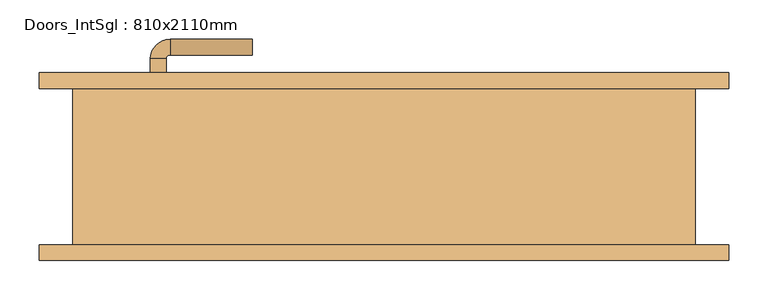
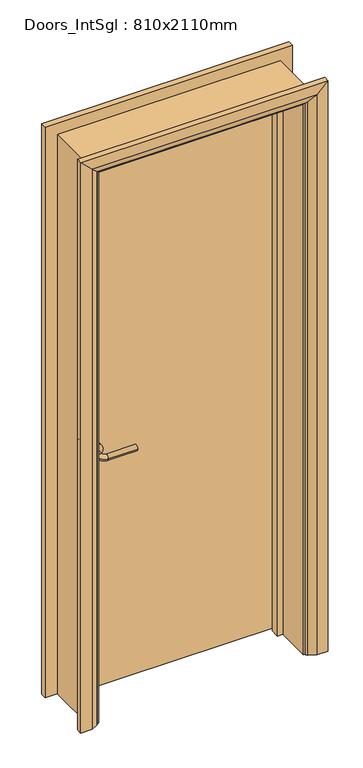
"""IFC4 building model written with IfcOpenShell, lengths in millimetres: door geometry, Doors_IntSgl : 810x2110mm."""

from ifc_helpers import new_model, si_unit, point, frame, frame_2d, origin, place, context, project, spatial, polyline, circle_curve, ellipse_curve, trimmed, segment, composite_curve, outline, extrude, faceted_brep, source, transform, mapped, element, save
from ifc_brep_helpers import plane_surface, cylinder_surface, revolved_surface, advanced_brep


def doors_intsgl_810x2110mm_e568eb51(model_context):
    return source(origin(), model_context, "Body", "SolidModel", [
        advanced_brep(
        [(-298.0, 54.0, 900.0), (-278.0, 54.0, 900.0), (-278.0, 24.0, 900.0), (-298.0, 24.0, 900.0), (-273.0, 19.0, 900.0), (-273.0, -1.0, 900.0), (-168.0, -1.0, 900.0), (-168.0, 19.0, 900.0)],
        [
            (0, 1, circle_curve(frame((-288.0, 54.0, 900.0), z_axis=(0.0, 1.0, 0.0), x_axis=(1.0, 0.0, 0.0)), 10.0)),
            (1, 0, circle_curve(frame((-288.0, 54.0, 900.0), z_axis=(0.0, 1.0, 0.0), x_axis=(1.0, 0.0, 0.0)), 10.0)),
            (1, 2),
            (2, 3, circle_curve(frame((-288.0, 24.0, 900.0), z_axis=(0.0, 1.0, 0.0), x_axis=(1.0, 0.0, 0.0)), 10.0)),
            (3, 0),
            (3, 2, circle_curve(frame((-288.0, 24.0, 900.0), z_axis=(0.0, 1.0, 0.0), x_axis=(1.0, 0.0, 0.0)), 10.0)),
            (4, 5, circle_curve(frame((-273.0, 9.0, 900.0), z_axis=(-1.0, 0.0, 0.0), x_axis=(0.0, 1.0, 0.0)), 10.0)),
            (5, 3, circle_curve(frame((-273.0, 24.0, 900.0), z_axis=(0.0, 0.0, -1.0), x_axis=(-1.0, 0.0, 0.0)), 25.0)),
            (2, 4, circle_curve(frame((-273.0, 24.0, 900.0), z_axis=(0.0, 0.0, 1.0), x_axis=(-1.0, 0.0, 0.0)), 5.0)),
            (5, 4, circle_curve(frame((-273.0, 9.0, 900.0), z_axis=(-1.0, 0.0, 0.0), x_axis=(0.0, 1.0, 0.0)), 10.0)),
            (6, 7, circle_curve(frame((-168.0, 9.0, 900.0), z_axis=(1.0, 0.0, 0.0), x_axis=(0.0, 1.0, 0.0)), 10.0)),
            (7, 6, circle_curve(frame((-168.0, 9.0, 900.0), z_axis=(1.0, 0.0, 0.0), x_axis=(0.0, 1.0, 0.0)), 10.0)),
            (4, 7),
            (6, 5),
        ],
        [
            plane_surface(frame((-288.0, 54.0, 900.0), z_axis=(0.0, 1.0, 0.0), x_axis=(0.0, 0.0, 1.0))),
            cylinder_surface(frame((-288.0, 54.0, 900.0), z_axis=(0.0, 1.0, 0.0), x_axis=(1.0, 0.0, 0.0)), 10.0),
            revolved_surface(trimmed(ellipse_curve(frame((-288.0, 24.0, 900.0), z_axis=(0.0, -1.0, 0.0), x_axis=(1.0, 0.0, 0.0)), 10.0, 10.0), [point((-298.0, 24.0, 900.0))], [point((-278.0, 24.0, 900.0))], True, "CARTESIAN"), (-273.0, 24.0, 900.0), (0.0, 0.0, -1.0)),
            revolved_surface(trimmed(ellipse_curve(frame((-288.0, 24.0, 900.0), z_axis=(0.0, -1.0, 0.0), x_axis=(1.0, 0.0, 0.0)), 10.0, 10.0), [point((-278.0, 24.0, 900.0))], [point((-298.0, 24.0, 900.0))], True, "CARTESIAN"), (-273.0, 24.0, 900.0), (0.0, 0.0, -1.0)),
            plane_surface(frame((-168.0, 9.0, 900.0), z_axis=(1.0, 0.0, 0.0), x_axis=(0.0, 0.0, 1.0))),
            cylinder_surface(frame((-273.0, 9.0, 900.0), z_axis=(-1.0, 0.0, 0.0), x_axis=(0.0, 1.0, 0.0)), 10.0),
        ],
        [
            (0, [[1, 2]]),
            (1, [[3, 4, 5, -2]]),
            (1, [[-5, 6, -3, -1]]),
            (2, [[7, 8, -4, 9]]),
            (3, [[10, -9, -6, -8]]),
            (4, [[11, 12]]),
            (5, [[13, -11, 14, -7]]),
            (5, [[-14, -12, -13, -10]]),
        ],
    ),
        extrude(outline(composite_curve([segment(trimmed(circle_curve(frame_2d((900.0, -290.5)), 30.0), [point((900.0, -320.5))], [point((900.0, -260.5))], False, "CARTESIAN"), True, "CONTINUOUS"), segment(trimmed(circle_curve(frame_2d((900.0, -290.5)), 30.0), [point((900.0, -260.5))], [point((900.0, -320.5))], False, "CARTESIAN"), True, "CONTINUOUS")], self_intersect=False)), frame((0.0, 54.0, 0.0), z_axis=(0.0, 1.0, 0.0), x_axis=(0.0, 0.0, 1.0)), (0.0, 0.0, 1.0), 8.0),
        advanced_brep(
        [(-298.0, 108.0, 900.0), (-278.0, 108.0, 900.0), (-298.0, 138.0, 900.0), (-278.0, 138.0, 900.0), (-273.0, 143.0, 900.0), (-273.0, 163.0, 900.0), (-168.0, 163.0, 900.0), (-168.0, 143.0, 900.0)],
        [
            (0, 1, circle_curve(frame((-288.0, 108.0, 900.0), z_axis=(0.0, -1.0, 0.0), x_axis=(1.0, 0.0, 0.0)), 10.0)),
            (1, 0, circle_curve(frame((-288.0, 108.0, 900.0), z_axis=(0.0, -1.0, 0.0), x_axis=(1.0, 0.0, 0.0)), 10.0)),
            (0, 2),
            (2, 3, circle_curve(frame((-288.0, 138.0, 900.0), z_axis=(0.0, -1.0, 0.0), x_axis=(1.0, 0.0, 0.0)), 10.0)),
            (3, 1),
            (3, 2, circle_curve(frame((-288.0, 138.0, 900.0), z_axis=(0.0, -1.0, 0.0), x_axis=(1.0, 0.0, 0.0)), 10.0)),
            (4, 3, circle_curve(frame((-273.0, 138.0, 900.0), z_axis=(0.0, 0.0, 1.0), x_axis=(-1.0, 0.0, 0.0)), 5.0)),
            (2, 5, circle_curve(frame((-273.0, 138.0, 900.0), z_axis=(0.0, 0.0, -1.0), x_axis=(-1.0, 0.0, 0.0)), 25.0)),
            (5, 4, circle_curve(frame((-273.0, 153.0, 900.0), z_axis=(-1.0, 0.0, 0.0), x_axis=(0.0, -1.0, 0.0)), 10.0)),
            (4, 5, circle_curve(frame((-273.0, 153.0, 900.0), z_axis=(-1.0, 0.0, 0.0), x_axis=(0.0, -1.0, 0.0)), 10.0)),
            (6, 7, circle_curve(frame((-168.0, 153.0, 900.0), z_axis=(1.0, 0.0, 0.0), x_axis=(0.0, -1.0, 0.0)), 10.0)),
            (7, 6, circle_curve(frame((-168.0, 153.0, 900.0), z_axis=(1.0, 0.0, 0.0), x_axis=(0.0, -1.0, 0.0)), 10.0)),
            (5, 6),
            (7, 4),
        ],
        [
            plane_surface(frame((-288.0, 108.0, 900.0), z_axis=(0.0, -1.0, 0.0), x_axis=(0.0, 0.0, 1.0))),
            cylinder_surface(frame((-288.0, 108.0, 900.0), z_axis=(0.0, -1.0, 0.0), x_axis=(1.0, 0.0, 0.0)), 10.0),
            revolved_surface(trimmed(ellipse_curve(frame((-288.0, 138.0, 900.0), z_axis=(0.0, -1.0, 0.0), x_axis=(1.0, 0.0, 0.0)), 10.0, 10.0), [point((-298.0, 138.0, 900.0))], [point((-278.0, 138.0, 900.0))], True, "CARTESIAN"), (-273.0, 138.0, 900.0), (0.0, 0.0, -1.0)),
            revolved_surface(trimmed(ellipse_curve(frame((-288.0, 138.0, 900.0), z_axis=(0.0, -1.0, 0.0), x_axis=(1.0, 0.0, 0.0)), 10.0, 10.0), [point((-278.0, 138.0, 900.0))], [point((-298.0, 138.0, 900.0))], True, "CARTESIAN"), (-273.0, 138.0, 900.0), (0.0, 0.0, -1.0)),
            plane_surface(frame((-168.0, 153.0, 900.0), z_axis=(1.0, 0.0, 0.0), x_axis=(0.0, 0.0, 1.0))),
            cylinder_surface(frame((-273.0, 153.0, 900.0), z_axis=(-1.0, 0.0, 0.0), x_axis=(0.0, -1.0, 0.0)), 10.0),
        ],
        [
            (0, [[1, 2]]),
            (1, [[-1, 3, 4, 5]]),
            (1, [[-2, -5, 6, -3]]),
            (2, [[7, -4, 8, 9]]),
            (3, [[-8, -6, -7, 10]]),
            (4, [[11, 12]]),
            (5, [[-9, 13, -12, 14]]),
            (5, [[-10, -14, -11, -13]]),
        ],
    ),
        extrude(outline(composite_curve([segment(trimmed(circle_curve(frame_2d((900.0, -290.5)), 30.0), [point((900.0, -320.5))], [point((900.0, -260.5))], False, "CARTESIAN"), True, "CONTINUOUS"), segment(trimmed(circle_curve(frame_2d((900.0, -290.5)), 30.0), [point((900.0, -260.5))], [point((900.0, -320.5))], False, "CARTESIAN"), True, "CONTINUOUS")], self_intersect=False)), frame((0.0, 100.0, 0.0), z_axis=(0.0, 1.0, 0.0), x_axis=(0.0, 0.0, 1.0)), (0.0, 0.0, 1.0), 8.0),
        extrude(outline(polyline([(363.0, 62.0), (-363.0, 62.0), (-363.0, 100.0), (363.0, 100.0), (363.0, 62.0)])), frame((0.0, 0.0, 8.0), z_axis=(0.0, 0.0, 1.0), x_axis=(1.0, 0.0, 0.0)), (0.0, 0.0, 1.0), 2060.0),
        advanced_brep(
        [(440.0, 120.0, 0.0), (440.0, 100.0, 0.0), (370.0, 100.0, 0.0), (374.0, 106.0, 0.0), (400.0, 120.0, 0.0), (440.0, 120.0, 2145.0), (440.0, 100.0, 2145.0), (-440.0, 100.0, 2145.0), (-440.0, 100.0, 0.0), (-370.0, 100.0, 0.0), (-370.0, 100.0, 2075.0), (370.0, 100.0, 2075.0), (374.0, 106.0, 2079.0), (400.0, 120.0, 2105.0), (-400.0, 120.0, 2105.0), (-400.0, 120.0, 0.0), (-440.0, 120.0, 0.0), (-440.0, 120.0, 2145.0), (-374.0, 106.0, 2079.0), (-374.0, 106.0, 0.0)],
        [
            (0, 1),
            (1, 2),
            (2, 3, circle_curve(frame((378.0, 99.0, 0.0), z_axis=(0.0, 0.0, -1.0), x_axis=(1.0, 0.0, 0.0)), 8.0622577)),
            (3, 4),
            (4, 0),
            (0, 5),
            (5, 6),
            (6, 1),
            (6, 7),
            (7, 8),
            (8, 9),
            (9, 10),
            (10, 11),
            (11, 2),
            (11, 12, ellipse_curve(frame((378.0, 99.0, 2083.0), z_axis=(0.7071067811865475, 0.0, -0.7071067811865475), x_axis=(-0.7071067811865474, 0.0, -0.7071067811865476)), 11.4017543, 8.0622577)),
            (12, 3),
            (12, 13),
            (13, 4),
            (13, 14),
            (14, 15),
            (15, 16),
            (16, 17),
            (17, 5),
            (17, 7),
            (10, 18, ellipse_curve(frame((-378.0, 99.0, 2083.0), z_axis=(0.7071067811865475, 0.0, 0.7071067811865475), x_axis=(0.7071067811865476, 0.0, -0.7071067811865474)), 11.4017543, 8.0622577)),
            (18, 12),
            (18, 14),
            (15, 19),
            (19, 9, circle_curve(frame((-378.0, 99.0, 0.0), z_axis=(0.0, 0.0, -1.0), x_axis=(-1.0, 0.0, 0.0)), 8.0622577)),
            (8, 16),
            (19, 18),
        ],
        [
            plane_surface(frame((370.0, 100.0, 0.0), z_axis=(0.0, 0.0, -1.0), x_axis=(0.0, -1.0, 0.0))),
            plane_surface(frame((440.0, 120.0, 0.0), z_axis=(1.0, 0.0, 0.0), x_axis=(0.0, 0.0, 1.0))),
            plane_surface(frame((440.0, 100.0, 0.0), z_axis=(0.0, -1.0, 0.0), x_axis=(0.0, 0.0, 1.0))),
            cylinder_surface(frame((378.0, 99.0, 0.0), z_axis=(0.0, 0.0, -1.0), x_axis=(1.0, 0.0, 0.0)), 8.0622577),
            plane_surface(frame((374.0, 106.0, 0.0), z_axis=(-0.4740998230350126, 0.880471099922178, 0.0), x_axis=(0.0, 0.0, 1.0))),
            plane_surface(frame((400.0, 120.0, 0.0), z_axis=(0.0, 1.0, 0.0), x_axis=(0.0, 0.0, 1.0))),
            plane_surface(frame((440.0, 120.0, 2145.0), z_axis=(0.0, 0.0, 1.0), x_axis=(-1.0, 0.0, 0.0))),
            cylinder_surface(frame((370.0, 99.0, 2083.0), z_axis=(1.0, 0.0, 0.0), x_axis=(0.0, 0.0, 1.0)), 8.0622577),
            plane_surface(frame((374.0, 106.0, 2079.0), z_axis=(0.0, 0.8804710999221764, -0.4740998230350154), x_axis=(-1.0, 0.0, 0.0))),
            plane_surface(frame((-370.0, 100.0, 0.0), z_axis=(0.0, 0.0, -1.0), x_axis=(0.0, -1.0, 0.0))),
            plane_surface(frame((-440.0, 120.0, 2145.0), z_axis=(-1.0, 0.0, 0.0), x_axis=(0.0, 0.0, -1.0))),
            cylinder_surface(frame((-378.0, 99.0, 2075.0), z_axis=(0.0, 0.0, 1.0), x_axis=(-1.0, 0.0, 0.0)), 8.0622577),
            plane_surface(frame((-374.0, 106.0, 2079.0), z_axis=(0.47409982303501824, 0.8804710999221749, 0.0), x_axis=(0.0, 0.0, -1.0))),
        ],
        [
            (0, [[1, 2, 3, 4, 5]]),
            (1, [[-1, 6, 7, 8]]),
            (2, [[-2, -8, 9, 10, 11, 12, 13, 14]]),
            (3, [[-3, -14, 15, 16]]),
            (4, [[-4, -16, 17, 18]]),
            (5, [[-5, -18, 19, 20, 21, 22, 23, -6]]),
            (6, [[-7, -23, 24, -9]]),
            (7, [[-15, -13, 25, 26]]),
            (8, [[-17, -26, 27, -19]]),
            (9, [[-21, 28, 29, -11, 30]]),
            (10, [[-24, -22, -30, -10]]),
            (11, [[-25, -12, -29, 31]]),
            (12, [[-27, -31, -28, -20]]),
        ],
    ),
        extrude(outline(polyline([(0.0, -365.0), (0.0, -346.0), (2051.0, -346.0), (2051.0, 346.0), (0.0, 346.0), (0.0, 365.0), (2070.0, 365.0), (2070.0, -365.0), (0.0, -365.0)])), frame((0.0, 28.0, 0.0), z_axis=(0.0, 1.0, 0.0), x_axis=(0.0, 0.0, 1.0)), (0.0, 0.0, 1.0), 32.0),
        advanced_brep(
        [(-440.0, -120.0, 0.0), (-440.0, -100.0, 0.0), (-370.0, -100.0, 0.0), (-374.0, -106.0, 0.0), (-400.0, -120.0, 0.0), (-440.0, -120.0, 2145.0), (-440.0, -100.0, 2145.0), (-370.0, -100.0, 2075.0), (-374.0, -106.0, 2079.0), (-400.0, -120.0, 2105.0), (440.0, -120.0, 2145.0), (440.0, -100.0, 2145.0), (370.0, -100.0, 2075.0), (374.0, -106.0, 2079.0), (400.0, -120.0, 2105.0), (440.0, -120.0, 0.0), (400.0, -120.0, 0.0), (374.0, -106.0, 0.0), (370.0, -100.0, 0.0), (440.0, -100.0, 0.0)],
        [
            (0, 1),
            (1, 2),
            (2, 3, circle_curve(frame((-378.0, -99.0, 0.0), z_axis=(0.0, 0.0, -1.0), x_axis=(-1.0, 0.0, 0.0)), 8.0622577)),
            (3, 4),
            (4, 0),
            (0, 5),
            (5, 6),
            (6, 1),
            (6, 7),
            (7, 2),
            (7, 8, ellipse_curve(frame((-378.0, -99.0, 2083.0), z_axis=(-0.7071067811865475, 0.0, -0.7071067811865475), x_axis=(0.7071067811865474, 0.0, -0.7071067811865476)), 11.4017543, 8.0622577)),
            (8, 3),
            (8, 9),
            (9, 4),
            (9, 5),
            (5, 10),
            (10, 11),
            (11, 6),
            (11, 12),
            (12, 7),
            (12, 13, ellipse_curve(frame((378.0, -99.0, 2083.0), z_axis=(-0.7071067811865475, 0.0, 0.7071067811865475), x_axis=(-0.7071067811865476, 0.0, -0.7071067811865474)), 11.4017543, 8.0622577)),
            (13, 8),
            (13, 14),
            (14, 9),
            (14, 10),
            (15, 16),
            (16, 17),
            (17, 18, circle_curve(frame((378.0, -99.0, 0.0), z_axis=(0.0, 0.0, -1.0), x_axis=(1.0, 0.0, 0.0)), 8.0622577)),
            (18, 19),
            (19, 15),
            (10, 15),
            (19, 11),
            (18, 12),
            (17, 13),
            (16, 14),
        ],
        [
            plane_surface(frame((-370.0, -172.8010989, 0.0), z_axis=(0.0, 0.0, -1.0), x_axis=(1.0, 0.0, 0.0))),
            plane_surface(frame((-440.0, -120.0, 0.0), z_axis=(-1.0, 0.0, 0.0), x_axis=(0.0, 0.0, 1.0))),
            plane_surface(frame((-440.0, -100.0, 0.0), z_axis=(0.0, 1.0, 0.0), x_axis=(0.0, 0.0, 1.0))),
            cylinder_surface(frame((-378.0, -99.0, 0.0), z_axis=(0.0, 0.0, -1.0), x_axis=(-1.0, 0.0, 0.0)), 8.0622577),
            plane_surface(frame((-374.0, -106.0, 0.0), z_axis=(0.4740998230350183, -0.8804710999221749, 0.0), x_axis=(0.0, 0.0, 1.0))),
            plane_surface(frame((-400.0, -120.0, 0.0), z_axis=(0.0, -1.0, 0.0), x_axis=(0.0, 0.0, 1.0))),
            plane_surface(frame((-440.0, -120.0, 2145.0), z_axis=(0.0, 0.0, 1.0), x_axis=(1.0, 0.0, 0.0))),
            plane_surface(frame((-440.0, -100.0, 2145.0), z_axis=(0.0, 1.0, 0.0), x_axis=(1.0, 0.0, 0.0))),
            cylinder_surface(frame((-370.0, -99.0, 2083.0), z_axis=(-1.0, 0.0, 0.0), x_axis=(0.0, 0.0, 1.0)), 8.0622577),
            plane_surface(frame((-374.0, -106.0, 2079.0), z_axis=(0.0, -0.8804710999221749, -0.4740998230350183), x_axis=(1.0, 0.0, 0.0))),
            plane_surface(frame((-400.0, -120.0, 2105.0), z_axis=(0.0, -1.0, 0.0), x_axis=(1.0, 0.0, 0.0))),
            plane_surface(frame((370.0, -172.8010989, 0.0), z_axis=(0.0, 0.0, -1.0), x_axis=(-1.0, 0.0, 0.0))),
            plane_surface(frame((440.0, -120.0, 2145.0), z_axis=(1.0, 0.0, 0.0), x_axis=(0.0, 0.0, -1.0))),
            plane_surface(frame((440.0, -100.0, 2145.0), z_axis=(0.0, 1.0, 0.0), x_axis=(0.0, 0.0, -1.0))),
            cylinder_surface(frame((378.0, -99.0, 2075.0), z_axis=(0.0, 0.0, 1.0), x_axis=(1.0, 0.0, 0.0)), 8.0622577),
            plane_surface(frame((374.0, -106.0, 2079.0), z_axis=(-0.4740998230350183, -0.8804710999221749, 0.0), x_axis=(0.0, 0.0, -1.0))),
            plane_surface(frame((400.0, -120.0, 2105.0), z_axis=(0.0, -1.0, 0.0), x_axis=(0.0, 0.0, -1.0))),
        ],
        [
            (0, [[1, 2, 3, 4, 5]]),
            (1, [[-1, 6, 7, 8]]),
            (2, [[-2, -8, 9, 10]]),
            (3, [[-3, -10, 11, 12]]),
            (4, [[-4, -12, 13, 14]]),
            (5, [[-5, -14, 15, -6]]),
            (6, [[-7, 16, 17, 18]]),
            (7, [[-9, -18, 19, 20]]),
            (8, [[-11, -20, 21, 22]]),
            (9, [[-13, -22, 23, 24]]),
            (10, [[-15, -24, 25, -16]]),
            (11, [[26, 27, 28, 29, 30]]),
            (12, [[-17, 31, -30, 32]]),
            (13, [[-19, -32, -29, 33]]),
            (14, [[-21, -33, -28, 34]]),
            (15, [[-23, -34, -27, 35]]),
            (16, [[-25, -35, -26, -31]]),
        ],
    ),
        faceted_brep([(-365.0, 100.0, 0.0), (-365.0, -100.0, 0.0), (-397.0, -100.0, 0.0), (-397.0, 100.0, 0.0), (-365.0, 100.0, 2070.0), (-365.0, -100.0, 2070.0), (-397.0, -100.0, 2102.0), (-397.0, 100.0, 2102.0), (365.0, 100.0, 2070.0), (365.0, -100.0, 2070.0), (397.0, -100.0, 2102.0), (397.0, 100.0, 2102.0), (365.0, 100.0, 0.0), (397.0, 100.0, 0.0), (397.0, -100.0, 0.0), (365.0, -100.0, 0.0)], [[[0, 1, 2, 3]], [[1, 0, 4, 5]], [[2, 1, 5, 6]], [[3, 2, 6, 7]], [[0, 3, 7, 4]], [[5, 4, 8, 9]], [[6, 5, 9, 10]], [[7, 6, 10, 11]], [[4, 7, 11, 8]], [[12, 13, 14, 15]], [[9, 8, 12, 15]], [[10, 9, 15, 14]], [[11, 10, 14, 13]], [[8, 11, 13, 12]]]),
    ])


if __name__ == "__main__":
    model = new_model("IFC4")
    model_context = context("Model", 3, world=origin())
    ifc_project = project(units=[si_unit("LENGTHUNIT", "METRE", prefix="MILLI")], contexts=[model_context])
    site = spatial("IfcSite", under=ifc_project)
    building = spatial("IfcBuilding", under=site)
    placement = place(None, origin())
    doors_intsgl_810x2110mm_shape = doors_intsgl_810x2110mm_e568eb51(model_context)
    element("IfcDoor", 1, ObjectType="Doors_IntSgl : 810x2110mm", at=placement, inside=building, context=model_context, shape_type="MappedRepresentation", body=[
        mapped(doors_intsgl_810x2110mm_shape, transform((0.0, 0.0, 0.0), x_axis=(1.0, 0.0, 0.0), y_axis=(0.0, 1.0, 0.0), z_axis=(0.0, 0.0, 1.0))),
    ])
    save(model, "model.ifc")
